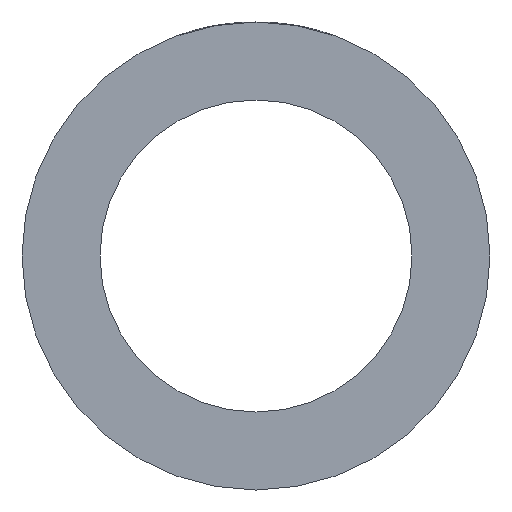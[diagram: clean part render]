
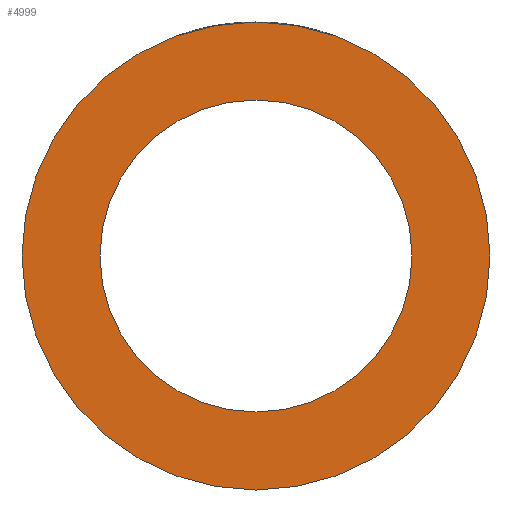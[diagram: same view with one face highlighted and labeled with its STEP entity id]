
A CAD part, left-side view. The second image highlights one B-rep face of the part: STEP entity #4999.
In plain terms, the highlighted planar face has unit normal (-1, 0, 0).
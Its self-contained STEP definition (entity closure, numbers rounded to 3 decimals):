
#115=PLANE('',#5388);
#343=CIRCLE('',#5387,90.);
#344=CIRCLE('',#5389,60.);
#1488=ORIENTED_EDGE('',*,*,#2994,.T.);
#1489=ORIENTED_EDGE('',*,*,#2993,.F.);
#2993=EDGE_CURVE('',#3746,#3746,#343,.T.);
#2994=EDGE_CURVE('',#3747,#3747,#344,.T.);
#3746=VERTEX_POINT('',#8107);
#3747=VERTEX_POINT('',#8110);
#4253=EDGE_LOOP('',(#1488));
#4254=EDGE_LOOP('',(#1489));
#4620=FACE_BOUND('',#4253,.T.);
#4621=FACE_BOUND('',#4254,.T.);
#4999=ADVANCED_FACE('',(#4620,#4621),#115,.F.);
#5387=AXIS2_PLACEMENT_3D('',#8106,#5900,#5901);
#5388=AXIS2_PLACEMENT_3D('',#8108,#5902,#5903);
#5389=AXIS2_PLACEMENT_3D('',#8109,#5904,#5905);
#5900=DIRECTION('',(1.,0.,0.));
#5901=DIRECTION('',(0.,0.,-1.));
#5902=DIRECTION('',(1.,0.,0.));
#5903=DIRECTION('',(0.,0.,-1.));
#5904=DIRECTION('',(1.,0.,0.));
#5905=DIRECTION('',(0.,0.,-1.));
#8106=CARTESIAN_POINT('',(-100.,0.,0.));
#8107=CARTESIAN_POINT('',(-100.,0.,-90.));
#8108=CARTESIAN_POINT('',(-100.,0.,0.));
#8109=CARTESIAN_POINT('',(-100.,0.,0.));
#8110=CARTESIAN_POINT('',(-100.,0.,-60.));
